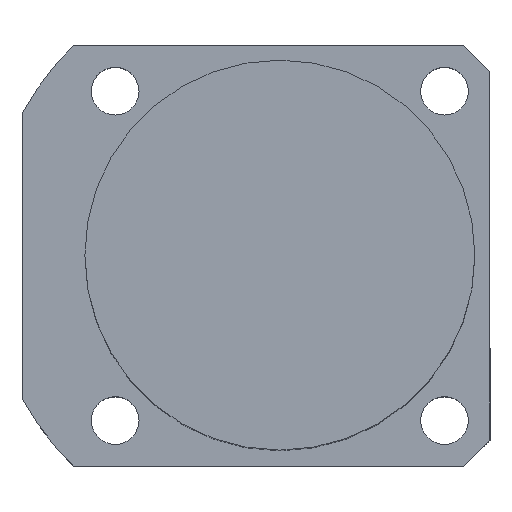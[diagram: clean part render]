
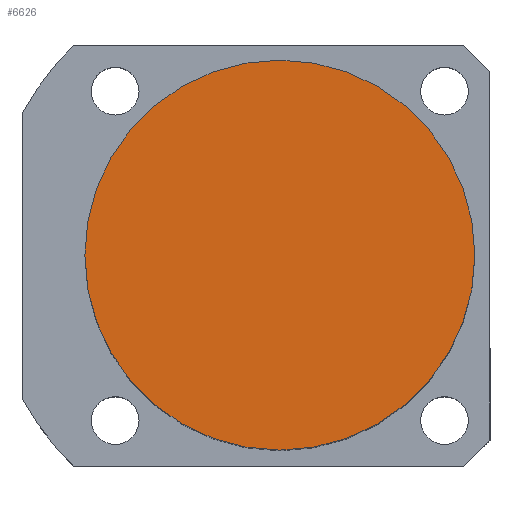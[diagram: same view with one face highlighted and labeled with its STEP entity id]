
A CAD part, top view. The second image highlights one B-rep face of the part: STEP entity #6626.
In plain terms, the highlighted planar face has unit normal (0, 0, 1).
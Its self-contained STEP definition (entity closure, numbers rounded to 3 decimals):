
#381 = CIRCLE ( 'NONE', #5877, 45. ) ;
#624 = AXIS2_PLACEMENT_3D ( 'NONE', #1268, #5096, #1831 ) ;
#641 = AXIS2_PLACEMENT_3D ( 'NONE', #1920, #6836, #3586 ) ;
#1268 = CARTESIAN_POINT ( 'NONE',  ( 0., 0., 114.5 ) ) ;
#1279 = ORIENTED_EDGE ( 'NONE', *, *, #4335, .T. ) ;
#1831 = DIRECTION ( 'NONE',  ( 1., 0., 0. ) ) ;
#1920 = CARTESIAN_POINT ( 'NONE',  ( 0., 0., 114.5 ) ) ;
#1994 = EDGE_LOOP ( 'NONE', ( #1279, #3833 ) ) ;
#2374 = EDGE_CURVE ( 'NONE', #3333, #3705, #5278, .T. ) ;
#2392 = FACE_OUTER_BOUND ( 'NONE', #1994, .T. ) ;
#2753 = CARTESIAN_POINT ( 'NONE',  ( 0., 0., 114.5 ) ) ;
#2940 = CARTESIAN_POINT ( 'NONE',  ( -45., 0., 114.5 ) ) ;
#3310 = DIRECTION ( 'NONE',  ( 1., 0., 0. ) ) ;
#3333 = VERTEX_POINT ( 'NONE', #6247 ) ;
#3586 = DIRECTION ( 'NONE',  ( 1., 0., 0. ) ) ;
#3705 = VERTEX_POINT ( 'NONE', #2940 ) ;
#3833 = ORIENTED_EDGE ( 'NONE', *, *, #2374, .T. ) ;
#4335 = EDGE_CURVE ( 'NONE', #3705, #3333, #381, .T. ) ;
#5096 = DIRECTION ( 'NONE',  ( 0., 0., 1. ) ) ;
#5278 = CIRCLE ( 'NONE', #624, 45. ) ;
#5877 = AXIS2_PLACEMENT_3D ( 'NONE', #2753, #6566, #3310 ) ;
#6247 = CARTESIAN_POINT ( 'NONE',  ( 45., 0., 114.5 ) ) ;
#6279 = PLANE ( 'NONE',  #641 ) ;
#6566 = DIRECTION ( 'NONE',  ( 0., 0., 1. ) ) ;
#6626 = ADVANCED_FACE ( 'NONE', ( #2392 ), #6279, .T. ) ;
#6836 = DIRECTION ( 'NONE',  ( 0., 0., 1. ) ) ;
